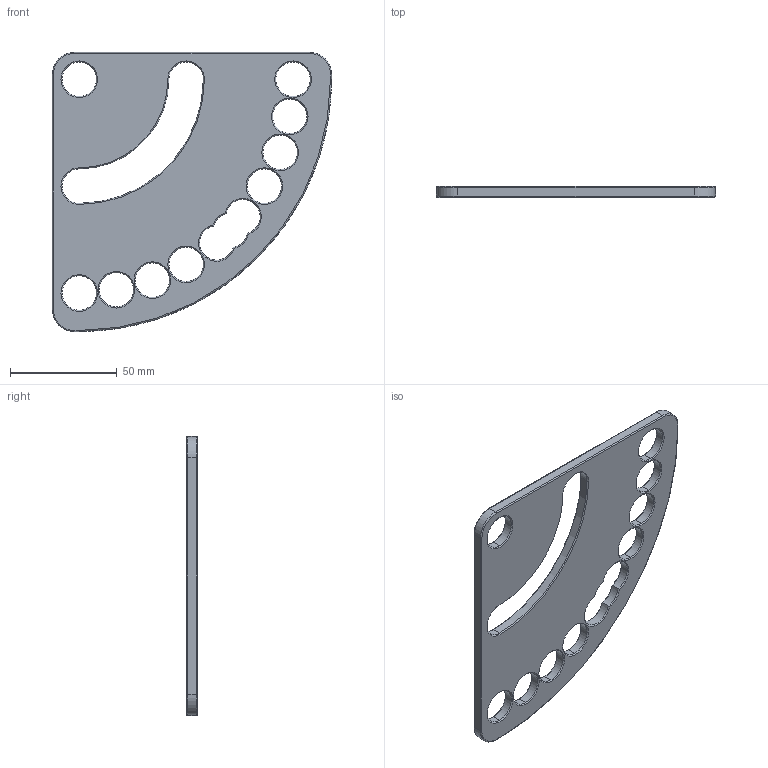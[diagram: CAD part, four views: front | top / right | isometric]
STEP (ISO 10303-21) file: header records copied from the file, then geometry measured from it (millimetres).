
FILE_DESCRIPTION (( 'STEP AP203' ), '1' );
FILE_NAME ('160455.step', '2014-08-11T15:59:56', ( 'User' ), ( '' ), 'SwSTEP 2.0', 'SolidWorks 2014', '' );
FILE_SCHEMA (( 'CONFIG_CONTROL_DESIGN' ));
Length unit declared in the file: millimetre
Products named in the file (1): 160455
Bounding box: 130.5 x 5 x 130.5 mm (x, y, z)
Volume: 50816.9 mm3; surface area: 25928.2 mm2
Topology: 1 solids, 1 shells, 846 faces, 2308 edges, 1521 vertices
Faces by surface type: plane 490, bspline 253, cone 55, cylinder 40, torus 8
Entity records: 40812 total; most frequent: CARTESIAN_POINT 21083, ORIENTED_EDGE 4616, DIRECTION 3145, EDGE_CURVE 2308, VERTEX_POINT 1521, LINE 1271, VECTOR 1271, AXIS2_PLACEMENT_3D 937
